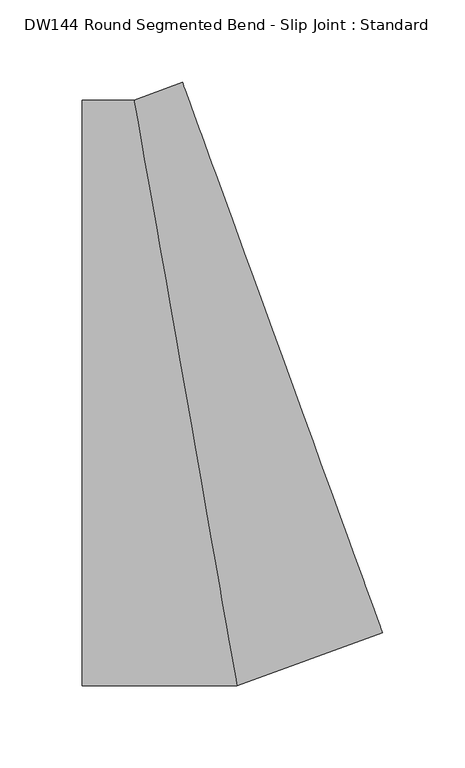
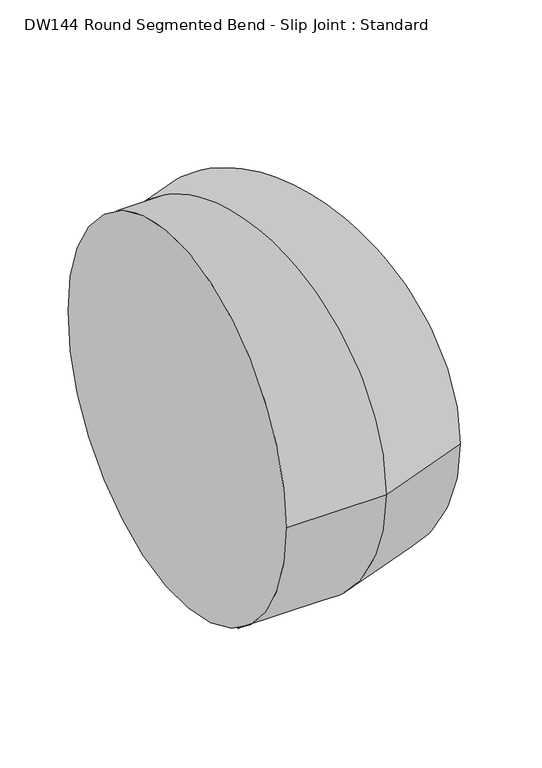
"""IFC4 building model written with IfcOpenShell, lengths in millimetres: duct fitting geometry, DW144 Round Segmented Bend - Slip Joint : Standard."""

from ifc_helpers import new_model, si_unit, frame, origin, place, context, project, spatial, circle_curve, ellipse_curve, source, transform, mapped, element, save
from ifc_brep_helpers import plane_surface, cylinder_surface, advanced_brep


def dw144_round_segmented_bend_slip_joint_standard_35caff6d(model_context):
    return source(origin(), model_context, "Body", "AdvancedBrep", [
        advanced_brep(
        [(-62.5960781, -177.5, 0.0), (-62.5960781, 177.5, 0.0), (31.2980391, -177.5, 0.0), (-31.2980391, 177.5, 0.0), (119.5296482, -145.3863206, 0.0), (-1.8875027, 188.2045598, 0.0)],
        [
            (0, 1, circle_curve(frame((-62.5960781, 0.0, 0.0), z_axis=(-1.0, 0.0, 0.0), x_axis=(0.0, 1.0, 0.0)), 177.5)),
            (1, 0, circle_curve(frame((-62.5960781, 0.0, 0.0), z_axis=(-1.0, 0.0, 0.0), x_axis=(0.0, 1.0, 0.0)), 177.5)),
            (0, 2),
            (2, 3, ellipse_curve(frame((0.0, 0.0, 0.0), z_axis=(-0.9848077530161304, -0.1736481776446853, 0.0), x_axis=(-0.17364817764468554, 0.9848077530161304, 0.0)), 180.2382236, 177.5)),
            (3, 1),
            (3, 2, ellipse_curve(frame((0.0, 0.0, 0.0), z_axis=(-0.9848077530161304, -0.1736481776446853, 0.0), x_axis=(-0.17364817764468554, 0.9848077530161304, 0.0)), 180.2382236, 177.5)),
            (2, 4),
            (4, 5, circle_curve(frame((58.8210727, 21.4091196, 0.0), z_axis=(-0.9396926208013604, -0.3420201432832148, 0.0), x_axis=(-0.3420201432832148, 0.9396926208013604, 0.0)), 177.5)),
            (5, 3),
            (5, 4, circle_curve(frame((58.8210727, 21.4091196, 0.0), z_axis=(-0.9396926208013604, -0.3420201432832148, 0.0), x_axis=(-0.3420201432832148, 0.9396926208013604, 0.0)), 177.5)),
        ],
        [
            plane_surface(frame((-62.5960781, 0.0, 0.0), z_axis=(-1.0, 0.0, 0.0), x_axis=(0.0, 0.0, 1.0))),
            cylinder_surface(frame((-62.5960781, 0.0, 0.0), z_axis=(-1.0, 0.0, 0.0), x_axis=(0.0, 1.0, 0.0)), 177.5),
            cylinder_surface(frame((0.0, 0.0, 0.0), z_axis=(-0.9396926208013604, -0.3420201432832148, 0.0), x_axis=(-0.3420201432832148, 0.9396926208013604, 0.0)), 177.5),
            plane_surface(frame((58.8210727, 21.4091196, 0.0), z_axis=(0.9396926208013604, 0.3420201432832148, 0.0), x_axis=(0.0, 0.0, 1.0))),
        ],
        [
            (0, [[1, 2]]),
            (1, [[-1, 3, 4, 5]]),
            (1, [[-2, -5, 6, -3]]),
            (2, [[-4, 7, 8, 9]]),
            (2, [[-6, -9, 10, -7]]),
            (3, [[-10, -8]]),
        ],
    ),
    ])


if __name__ == "__main__":
    model = new_model("IFC4")
    model_context = context("Model", 3, world=origin())
    ifc_project = project(units=[si_unit("LENGTHUNIT", "METRE", prefix="MILLI")], contexts=[model_context])
    site = spatial("IfcSite", under=ifc_project)
    building = spatial("IfcBuilding", under=site)
    placement = place(None, origin())
    dw144_round_segmented_bend_slip_joint_standard_shape = dw144_round_segmented_bend_slip_joint_standard_35caff6d(model_context)
    element("IfcDuctFitting", 1, ObjectType="DW144 Round Segmented Bend - Slip Joint : Standard", at=placement, inside=building, context=model_context, shape_type="MappedRepresentation", body=[
        mapped(dw144_round_segmented_bend_slip_joint_standard_shape, transform((0.0, 0.0, 0.0), x_axis=(1.0, 0.0, 0.0), y_axis=(0.0, 1.0, 0.0), z_axis=(0.0, 0.0, 1.0))),
    ])
    save(model, "model.ifc")
